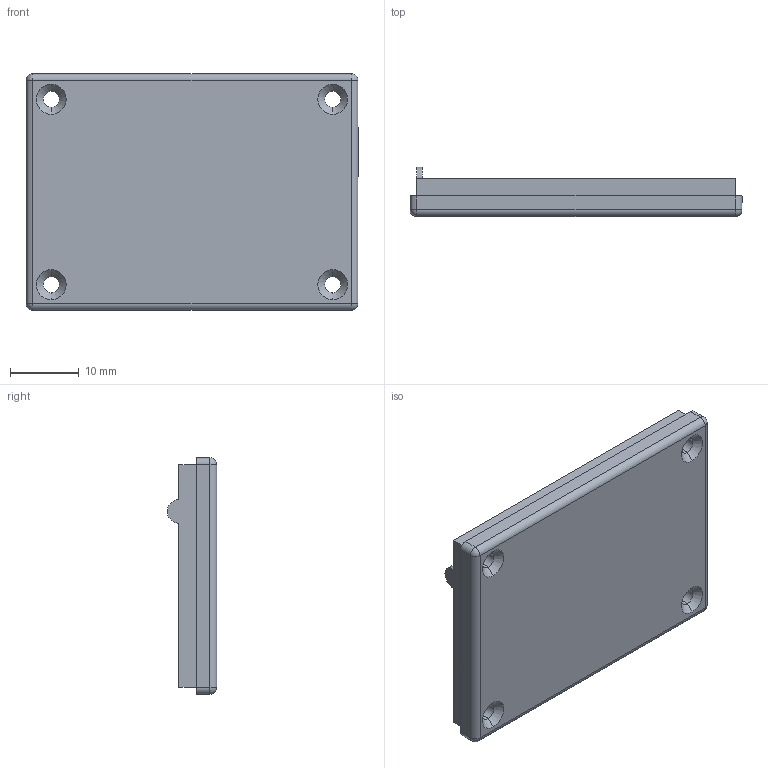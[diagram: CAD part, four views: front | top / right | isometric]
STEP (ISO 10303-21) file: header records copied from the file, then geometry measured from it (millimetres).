
FILE_DESCRIPTION (( 'STEP AP214' ), '1' );
FILE_NAME ('Tapa PP85D.STEP', '2016-09-22T16:47:20', ( 'aaa' ), ( '' ), 'SwSTEP 2.0', 'SolidWorks 2013', '' );
FILE_SCHEMA (( 'AUTOMOTIVE_DESIGN' ));
Length unit declared in the file: millimetre
Products named in the file (1): Tapa PP85D
Bounding box: 48.37 x 7.2 x 34.5 mm (x, y, z)
Volume: 3285.9 mm3; surface area: 4989.6 mm2
Topology: 1 solids, 1 shells, 66 faces, 176 edges, 108 vertices
Faces by surface type: cylinder 27, plane 27, cone 8, sphere 4
Entity records: 2068 total; most frequent: DIRECTION 368, CARTESIAN_POINT 347, ORIENTED_EDGE 344, EDGE_CURVE 172, AXIS2_PLACEMENT_3D 129, VECTOR 110, LINE 110, VERTEX_POINT 108
